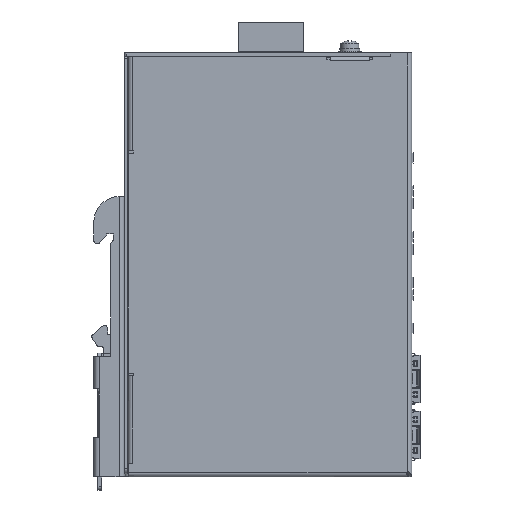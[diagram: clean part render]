
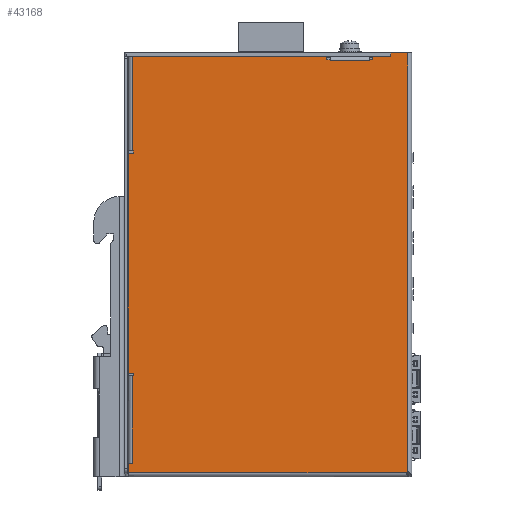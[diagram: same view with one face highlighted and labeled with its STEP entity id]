
A CAD part, left-side view. The second image highlights one B-rep face of the part: STEP entity #43168.
In plain terms, the highlighted planar face has unit normal (-1, 0, 0).
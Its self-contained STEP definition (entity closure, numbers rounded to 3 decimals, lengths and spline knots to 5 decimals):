
#5499=LINE('',#74228,#9899);
#5501=LINE('',#74235,#9901);
#5504=LINE('',#74245,#9904);
#5531=LINE('',#74299,#9931);
#5532=LINE('',#74301,#9932);
#5533=LINE('',#74303,#9933);
#5534=LINE('',#74305,#9934);
#5535=LINE('',#74306,#9935);
#5536=LINE('',#74308,#9936);
#5537=LINE('',#74310,#9937);
#5538=LINE('',#74312,#9938);
#5539=LINE('',#74314,#9939);
#5540=LINE('',#74316,#9940);
#5541=LINE('',#74318,#9941);
#5542=LINE('',#74320,#9942);
#5543=LINE('',#74322,#9943);
#5544=LINE('',#74324,#9944);
#5545=LINE('',#74326,#9945);
#5546=LINE('',#74327,#9946);
#5547=LINE('',#74329,#9947);
#5548=LINE('',#74331,#9948);
#5549=LINE('',#74333,#9949);
#5550=LINE('',#74335,#9950);
#5551=LINE('',#74337,#9951);
#5552=LINE('',#74339,#9952);
#9899=VECTOR('',#58752,1.);
#9901=VECTOR('',#58758,1.);
#9904=VECTOR('',#58765,1.);
#9931=VECTOR('',#58796,1.);
#9932=VECTOR('',#58797,1.);
#9933=VECTOR('',#58798,1.);
#9934=VECTOR('',#58799,1.);
#9935=VECTOR('',#58800,1.);
#9936=VECTOR('',#58801,1.);
#9937=VECTOR('',#58802,1.);
#9938=VECTOR('',#58803,1.);
#9939=VECTOR('',#58804,1.);
#9940=VECTOR('',#58805,1.);
#9941=VECTOR('',#58806,1.);
#9942=VECTOR('',#58807,1.);
#9943=VECTOR('',#58808,1.);
#9944=VECTOR('',#58809,1.);
#9945=VECTOR('',#58810,1.);
#9946=VECTOR('',#58811,1.);
#9947=VECTOR('',#58812,1.);
#9948=VECTOR('',#58813,1.);
#9949=VECTOR('',#58814,1.);
#9950=VECTOR('',#58815,1.);
#9951=VECTOR('',#58816,1.);
#9952=VECTOR('',#58817,1.);
#21968=ORIENTED_EDGE('',*,*,#28464,.F.);
#21969=ORIENTED_EDGE('',*,*,#28465,.T.);
#21970=ORIENTED_EDGE('',*,*,#28466,.F.);
#21971=ORIENTED_EDGE('',*,*,#28467,.T.);
#21972=ORIENTED_EDGE('',*,*,#28430,.F.);
#21973=ORIENTED_EDGE('',*,*,#28468,.T.);
#21974=ORIENTED_EDGE('',*,*,#28469,.F.);
#21975=ORIENTED_EDGE('',*,*,#28470,.T.);
#21976=ORIENTED_EDGE('',*,*,#28471,.F.);
#21977=ORIENTED_EDGE('',*,*,#28472,.T.);
#21978=ORIENTED_EDGE('',*,*,#28473,.F.);
#21979=ORIENTED_EDGE('',*,*,#28474,.F.);
#21980=ORIENTED_EDGE('',*,*,#28475,.T.);
#21981=ORIENTED_EDGE('',*,*,#28476,.T.);
#21982=ORIENTED_EDGE('',*,*,#28477,.F.);
#21983=ORIENTED_EDGE('',*,*,#28478,.T.);
#21984=ORIENTED_EDGE('',*,*,#28433,.T.);
#21985=ORIENTED_EDGE('',*,*,#28479,.T.);
#21986=ORIENTED_EDGE('',*,*,#28480,.F.);
#21987=ORIENTED_EDGE('',*,*,#28481,.F.);
#21988=ORIENTED_EDGE('',*,*,#28482,.T.);
#21989=ORIENTED_EDGE('',*,*,#28483,.T.);
#21990=ORIENTED_EDGE('',*,*,#28484,.F.);
#21991=ORIENTED_EDGE('',*,*,#28485,.T.);
#21992=ORIENTED_EDGE('',*,*,#28437,.T.);
#28430=EDGE_CURVE('',#32557,#32558,#5499,.F.);
#28433=EDGE_CURVE('',#32560,#32561,#5501,.F.);
#28437=EDGE_CURVE('',#32565,#32563,#5504,.T.);
#28464=EDGE_CURVE('',#32590,#32563,#5531,.T.);
#28465=EDGE_CURVE('',#32590,#32591,#5532,.T.);
#28466=EDGE_CURVE('',#32592,#32591,#5533,.T.);
#28467=EDGE_CURVE('',#32592,#32558,#5534,.F.);
#28468=EDGE_CURVE('',#32557,#32593,#5535,.T.);
#28469=EDGE_CURVE('',#32594,#32593,#5536,.T.);
#28470=EDGE_CURVE('',#32594,#32595,#5537,.T.);
#28471=EDGE_CURVE('',#32596,#32595,#5538,.T.);
#28472=EDGE_CURVE('',#32596,#32597,#5539,.T.);
#28473=EDGE_CURVE('',#32598,#32597,#5540,.F.);
#28474=EDGE_CURVE('',#32599,#32598,#5541,.F.);
#28475=EDGE_CURVE('',#32599,#32600,#5542,.T.);
#28476=EDGE_CURVE('',#32600,#32601,#5543,.T.);
#28477=EDGE_CURVE('',#32602,#32601,#5544,.F.);
#28478=EDGE_CURVE('',#32602,#32560,#5545,.F.);
#28479=EDGE_CURVE('',#32561,#32603,#5546,.T.);
#28480=EDGE_CURVE('',#32604,#32603,#5547,.T.);
#28481=EDGE_CURVE('',#32605,#32604,#5548,.F.);
#28482=EDGE_CURVE('',#32605,#32606,#5549,.F.);
#28483=EDGE_CURVE('',#32606,#32607,#5550,.T.);
#28484=EDGE_CURVE('',#32608,#32607,#5551,.T.);
#28485=EDGE_CURVE('',#32608,#32565,#5552,.T.);
#32557=VERTEX_POINT('',#74229);
#32558=VERTEX_POINT('',#74230);
#32560=VERTEX_POINT('',#74236);
#32561=VERTEX_POINT('',#74237);
#32563=VERTEX_POINT('',#74243);
#32565=VERTEX_POINT('',#74246);
#32590=VERTEX_POINT('',#74300);
#32591=VERTEX_POINT('',#74302);
#32592=VERTEX_POINT('',#74304);
#32593=VERTEX_POINT('',#74307);
#32594=VERTEX_POINT('',#74309);
#32595=VERTEX_POINT('',#74311);
#32596=VERTEX_POINT('',#74313);
#32597=VERTEX_POINT('',#74315);
#32598=VERTEX_POINT('',#74317);
#32599=VERTEX_POINT('',#74319);
#32600=VERTEX_POINT('',#74321);
#32601=VERTEX_POINT('',#74323);
#32602=VERTEX_POINT('',#74325);
#32603=VERTEX_POINT('',#74328);
#32604=VERTEX_POINT('',#74330);
#32605=VERTEX_POINT('',#74332);
#32606=VERTEX_POINT('',#74334);
#32607=VERTEX_POINT('',#74336);
#32608=VERTEX_POINT('',#74338);
#36653=EDGE_LOOP('',(#21968,#21969,#21970,#21971,#21972,#21973,#21974,#21975,
#21976,#21977,#21978,#21979,#21980,#21981,#21982,#21983,#21984,#21985,#21986,
#21987,#21988,#21989,#21990,#21991,#21992));
#39272=FACE_BOUND('',#36653,.T.);
#40875=PLANE('',#47108);
#43168=ADVANCED_FACE('',(#39272),#40875,.F.);
#47108=AXIS2_PLACEMENT_3D('',#74298,#58794,#58795);
#58752=DIRECTION('',(0.,1.,0.));
#58758=DIRECTION('',(0.,0.,-1.));
#58765=DIRECTION('',(0.,0.,-1.));
#58794=DIRECTION('',(1.,0.,0.));
#58795=DIRECTION('',(0.,0.,-1.));
#58796=DIRECTION('',(0.,1.,0.));
#58797=DIRECTION('',(0.,0.,-1.));
#58798=DIRECTION('',(0.,-1.,0.));
#58799=DIRECTION('',(0.,0.,1.));
#58800=DIRECTION('',(0.,0.,-1.));
#58801=DIRECTION('',(0.,1.,0.));
#58802=DIRECTION('',(0.,-0.707,0.707));
#58803=DIRECTION('',(0.,0.,-1.));
#58804=DIRECTION('',(0.,1.,0.));
#58805=DIRECTION('',(0.,0.,-1.));
#58806=DIRECTION('',(0.,1.,0.));
#58807=DIRECTION('',(0.,0.,-1.));
#58808=DIRECTION('',(0.,1.,0.));
#58809=DIRECTION('',(0.,0.,-1.));
#58810=DIRECTION('',(0.,-1.,0.));
#58811=DIRECTION('',(0.,1.,0.));
#58812=DIRECTION('',(0.,0.,-1.));
#58813=DIRECTION('',(0.,1.,0.));
#58814=DIRECTION('',(0.,0.,1.));
#58815=DIRECTION('',(0.,-1.,0.));
#58816=DIRECTION('',(0.,0.,1.));
#58817=DIRECTION('',(0.,1.,0.));
#74228=CARTESIAN_POINT('',(-0.015,-0.044,-0.06075));
#74229=CARTESIAN_POINT('',(-0.015,0.04285,-0.06075));
#74230=CARTESIAN_POINT('',(-0.015,0.04175,-0.06075));
#74235=CARTESIAN_POINT('',(-0.015,-0.019,0.063));
#74236=CARTESIAN_POINT('',(-0.015,-0.019,0.06275));
#74237=CARTESIAN_POINT('',(-0.015,-0.019,0.063));
#74243=CARTESIAN_POINT('',(-0.015,0.04299,-0.0332));
#74245=CARTESIAN_POINT('',(-0.015,0.04299,0.));
#74246=CARTESIAN_POINT('',(-0.015,0.04299,0.0342));
#74298=CARTESIAN_POINT('',(-0.015,-0.044,0.));
#74299=CARTESIAN_POINT('',(-0.015,0.0426,-0.0332));
#74300=CARTESIAN_POINT('',(-0.015,0.04135,-0.0332));
#74301=CARTESIAN_POINT('',(-0.015,0.04135,-0.0336));
#74302=CARTESIAN_POINT('',(-0.015,0.04135,-0.034));
#74303=CARTESIAN_POINT('',(-0.015,0.0426,-0.034));
#74304=CARTESIAN_POINT('',(-0.015,0.04175,-0.034));
#74305=CARTESIAN_POINT('',(-0.015,0.04175,0.));
#74306=CARTESIAN_POINT('',(-0.015,0.04285,0.));
#74307=CARTESIAN_POINT('',(-0.015,0.04285,-0.06375));
#74308=CARTESIAN_POINT('',(-0.015,-0.044,-0.06375));
#74309=CARTESIAN_POINT('',(-0.015,-0.04234,-0.06375));
#74310=CARTESIAN_POINT('',(-0.015,-0.07505,-0.03105));
#74311=CARTESIAN_POINT('',(-0.015,-0.04275,-0.06334));
#74312=CARTESIAN_POINT('',(-0.015,-0.04275,0.));
#74313=CARTESIAN_POINT('',(-0.015,-0.04275,0.065));
#74314=CARTESIAN_POINT('',(-0.015,-0.044,0.065));
#74315=CARTESIAN_POINT('',(-0.015,-0.0376,0.065));
#74316=CARTESIAN_POINT('',(-0.015,-0.0376,0.));
#74317=CARTESIAN_POINT('',(-0.015,-0.0376,0.064));
#74318=CARTESIAN_POINT('',(-0.015,-0.044,0.064));
#74319=CARTESIAN_POINT('',(-0.015,-0.032,0.064));
#74320=CARTESIAN_POINT('',(-0.015,-0.032,0.));
#74321=CARTESIAN_POINT('',(-0.015,-0.032,0.063));
#74322=CARTESIAN_POINT('',(-0.015,-0.044,0.063));
#74323=CARTESIAN_POINT('',(-0.015,-0.031,0.063));
#74324=CARTESIAN_POINT('',(-0.015,-0.031,0.063));
#74325=CARTESIAN_POINT('',(-0.015,-0.031,0.06275));
#74326=CARTESIAN_POINT('',(-0.015,-0.044,0.06275));
#74327=CARTESIAN_POINT('',(-0.015,-0.044,0.063));
#74328=CARTESIAN_POINT('',(-0.015,-0.018,0.063));
#74329=CARTESIAN_POINT('',(-0.015,-0.018,0.));
#74330=CARTESIAN_POINT('',(-0.015,-0.018,0.064));
#74331=CARTESIAN_POINT('',(-0.015,-0.044,0.064));
#74332=CARTESIAN_POINT('',(-0.015,0.04175,0.064));
#74333=CARTESIAN_POINT('',(-0.015,0.04175,0.));
#74334=CARTESIAN_POINT('',(-0.015,0.04175,0.035));
#74335=CARTESIAN_POINT('',(-0.015,0.0426,0.035));
#74336=CARTESIAN_POINT('',(-0.015,0.04135,0.035));
#74337=CARTESIAN_POINT('',(-0.015,0.04135,0.0346));
#74338=CARTESIAN_POINT('',(-0.015,0.04135,0.0342));
#74339=CARTESIAN_POINT('',(-0.015,0.0426,0.0342));
